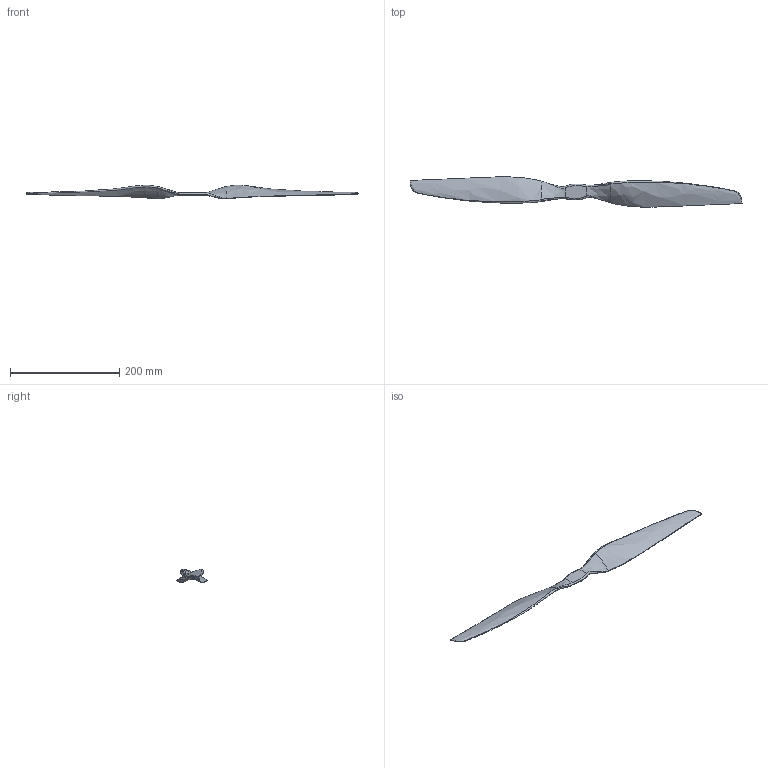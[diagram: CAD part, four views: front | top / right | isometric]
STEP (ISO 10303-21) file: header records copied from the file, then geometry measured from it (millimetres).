
FILE_DESCRIPTION(/* description */ (''),/* implementation_level */ '2;1');
FILE_NAME(/* name */ 'PROPEL~4',/* time_stamp */ '2022-02-14T13:17:41+01:00',/* author */ (''),/* organization */ (''),/* preprocessor_version */ 'ST-DEVELOPER v16.5',/* originating_system */ '',/* authorisation */ '');
FILE_SCHEMA (('AUTOMOTIVE_DESIGN'));
Length unit declared in the file: millimetre
Products named in the file (1): Document
Bounding box: 608.19 x 55.42 x 24.79 mm (x, y, z)
Volume: 64048.1 mm3; surface area: 48511.4 mm2
Topology: 1 solids, 1 shells, 28 faces, 78 edges, 52 vertices
Faces by surface type: bspline 26, plane 2
Entity records: 3401 total; most frequent: CARTESIAN_POINT 2896, ORIENTED_EDGE 156, EDGE_CURVE 78, B_SPLINE_CURVE_WITH_KNOTS 78, VERTEX_POINT 52, ADVANCED_FACE 28, FACE_OUTER_BOUND 28, EDGE_LOOP 28
